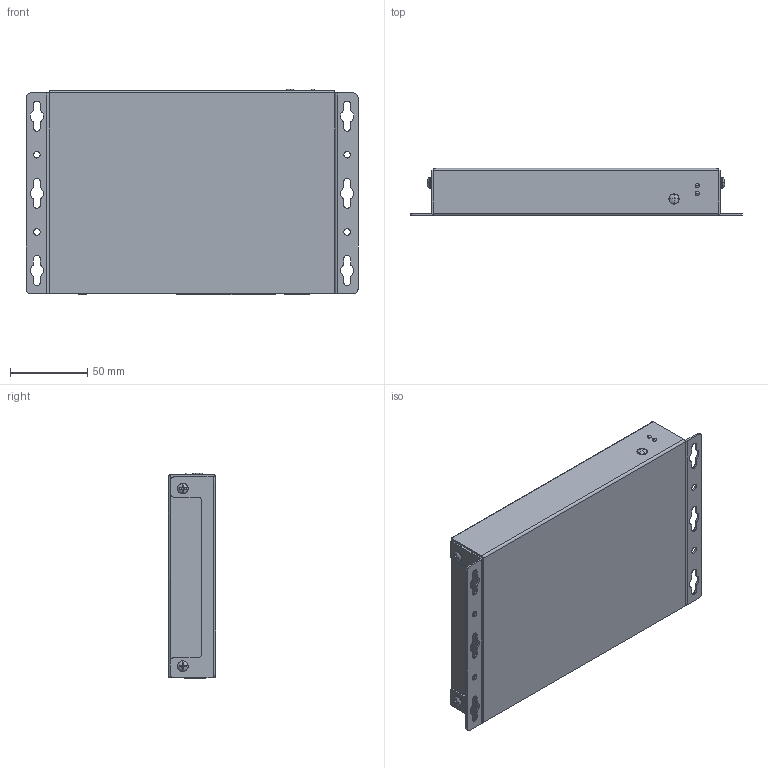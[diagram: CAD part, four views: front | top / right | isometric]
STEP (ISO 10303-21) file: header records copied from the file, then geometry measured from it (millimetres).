
FILE_DESCRIPTION (( 'STEP AP214' ), '1' );
FILE_NAME ('FG-901626-3D (on surface).STEP', '2026-02-26T17:58:15', ( '' ), ( '' ), 'SwSTEP 2.0', 'SolidWorks 2023', '' );
FILE_SCHEMA (( 'AUTOMOTIVE_DESIGN' ));
Length unit declared in the file: millimetre
Products named in the file (1): FG-901626-3D (on surface)
Bounding box: 215 x 30.5 x 133.37 mm (x, y, z)
Volume: 747604 mm3; surface area: 86433.7 mm2
Topology: 7 solids, 7 shells, 2305 faces, 4838 edges, 3209 vertices
Faces by surface type: cylinder 1384, plane 847, cone 40, torus 30, sphere 4
Entity records: 88060 total; most frequent: DIRECTION 12264, CARTESIAN_POINT 11319, ORIENTED_EDGE 9676, AXIS2_PLACEMENT_3D 5202, EDGE_CURVE 4838, VERTEX_POINT 3209, EDGE_LOOP 2987, CIRCLE 2896
